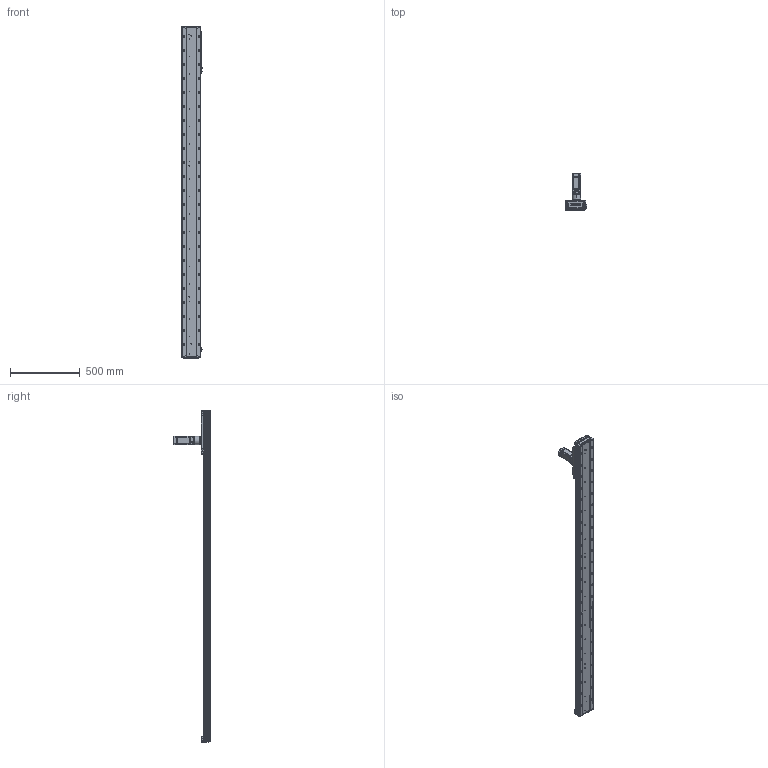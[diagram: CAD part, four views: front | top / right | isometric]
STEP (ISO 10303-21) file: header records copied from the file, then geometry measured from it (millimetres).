
FILE_DESCRIPTION (( 'STEP AP203' ), '1' );
FILE_NAME ('RY140-C-250-UK.SLDASM_2000.step', '2022-03-12T01:59:56', ( '' ), ( '' ), 'SwSTEP 2.0', 'SolidWorks 2016', '' );
FILE_SCHEMA (( 'CONFIG_CONTROL_DESIGN' ));
Length unit declared in the file: millimetre
Products named in the file (12): 15; RY120外置感应片(140共用）; 60ZDF珨撰俋倛芞T1 200W M4; 140蚥薯蝶輸; RY140-喘謫萇儂覃誹啣; RY140-300齿条模组型材底座_2000; 絳寢賑輸EGH15; RY140-喘沭裔啣; RY140-喘沭賑輸; RY140-C-250-UK.SLDASM_2000; RY140-絳寢EGH15-300-MK_2000; 覜茼ん672
Assembly tree (21 placements, depth 2):
  RY140-C-250-UK.SLDASM_2000
    RY140-300齿条模组型材底座_2000
    RY140-絳寢EGH15-300-MK_2000  x2
    絳寢賑輸EGH15  x6
    RY140-喘沭裔啣  x2
    覜茼ん672  x3
    RY140-喘沭賑輸
    RY120外置感应片(140共用）
    RY140-喘謫萇儂覃誹啣
    140蚥薯蝶輸  x2
    60ZDF珨撰俋倛芞T1 200W M4
    15
Bounding box: 153.7 x 263.5 x 2372 mm (x, y, z)
Volume: 7485006 mm3; surface area: 2049328.3 mm2
Topology: 21 solids, 21 shells, 3948 faces, 10610 edges, 6840 vertices
Faces by surface type: cylinder 1898, plane 1700, cone 304, bspline 46
Entity records: 92297 total; most frequent: CARTESIAN_POINT 20792, ORIENTED_EDGE 14634, DIRECTION 14569, EDGE_CURVE 7317, AXIS2_PLACEMENT_3D 5290, VERTEX_POINT 4793, VECTOR 3989, LINE 3989
